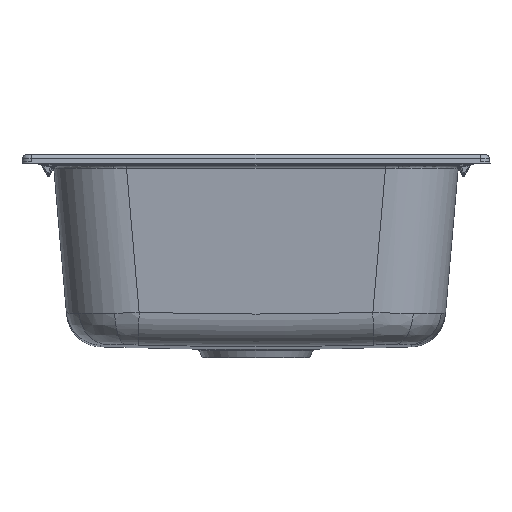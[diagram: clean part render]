
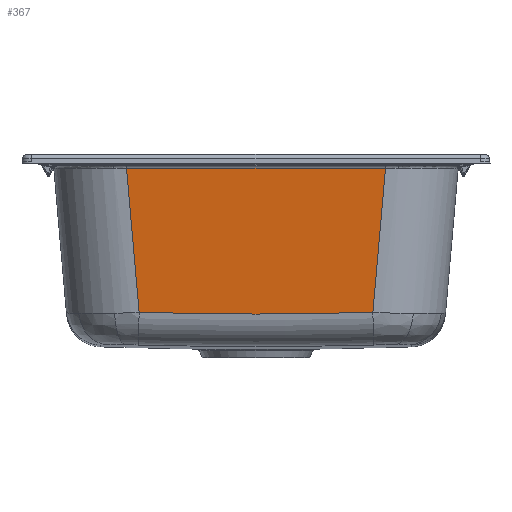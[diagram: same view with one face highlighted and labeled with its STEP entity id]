
A CAD part, left-side view. The second image highlights one B-rep face of the part: STEP entity #367.
In plain terms, the highlighted planar face has unit normal (-0.996, 0, -0.087).
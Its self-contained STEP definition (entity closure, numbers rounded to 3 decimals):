
#367=ADVANCED_FACE('',(#1405),#1406,.T.);
#1405=FACE_OUTER_BOUND('',#6645,.T.);
#1406=PLANE('',#6646);
#6645=EDGE_LOOP('',(#16516,#16517,#16518,#16519,#16520));
#6646=AXIS2_PLACEMENT_3D('',#16521,#16522,#16523);
#16516=ORIENTED_EDGE('',*,*,#20218,.F.);
#16517=ORIENTED_EDGE('',*,*,#20535,.T.);
#16518=ORIENTED_EDGE('',*,*,#20247,.F.);
#16519=ORIENTED_EDGE('',*,*,#20536,.F.);
#16520=ORIENTED_EDGE('',*,*,#20537,.F.);
#16521=CARTESIAN_POINT('',(-396.92,206.705,7.549));
#16522=DIRECTION('',(-0.996,0.,-0.087));
#16523=DIRECTION('',(-0.087,0.0,0.996));
#20218=EDGE_CURVE('',#22691,#22693,#22694,.T.);
#20247=EDGE_CURVE('',#22747,#22748,#22749,.F.);
#20535=EDGE_CURVE('',#22691,#22748,#23212,.T.);
#20536=EDGE_CURVE('',#23213,#22747,#23214,.T.);
#20537=EDGE_CURVE('',#22693,#23213,#23215,.T.);
#22691=VERTEX_POINT('',#29347);
#22693=VERTEX_POINT('',#29352);
#22694=LINE('',#29353,#29354);
#22747=VERTEX_POINT('',#29565);
#22748=VERTEX_POINT('',#29566);
#22749=LINE('',#29567,#29568);
#23212=LINE('',#31494,#31495);
#23213=VERTEX_POINT('',#31496);
#23214=B_SPLINE_CURVE_WITH_KNOTS('',5,(#31497,#31498,#31499,#31500,#31501,#31502),.UNSPECIFIED.,.F.,.F.,(6,6),(0.0,176.58),.UNSPECIFIED.);
#23215=B_SPLINE_CURVE_WITH_KNOTS('',5,(#31503,#31504,#31505,#31506,#31507,#31508),.UNSPECIFIED.,.F.,.F.,(6,6),(0.,176.58),.UNSPECIFIED.);
#29347=CARTESIAN_POINT('',(-396.043,-140.586,-2.481));
#29352=CARTESIAN_POINT('',(-382.553,-127.096,-156.675));
#29353=CARTESIAN_POINT('',(-397.446,-141.989,13.558));
#29354=VECTOR('',#41249,1.0);
#29565=CARTESIAN_POINT('',(-382.553,122.603,-156.675));
#29566=CARTESIAN_POINT('',(-396.043,136.094,-2.481));
#29567=CARTESIAN_POINT('',(-397.446,137.497,13.558));
#29568=VECTOR('',#41268,1.0);
#31494=CARTESIAN_POINT('',(-396.043,-2.246,-2.481));
#31495=VECTOR('',#41490,1.0);
#31496=CARTESIAN_POINT('',(-382.415,-2.246,-158.249));
#31497=CARTESIAN_POINT('',(-382.415,-2.246,-158.249));
#31498=CARTESIAN_POINT('',(-382.415,22.726,-158.249));
#31499=CARTESIAN_POINT('',(-382.429,47.698,-158.091));
#31500=CARTESIAN_POINT('',(-382.456,72.671,-157.777));
#31501=CARTESIAN_POINT('',(-382.498,97.639,-157.304));
#31502=CARTESIAN_POINT('',(-382.553,122.603,-156.675));
#31503=CARTESIAN_POINT('',(-382.553,-127.096,-156.675));
#31504=CARTESIAN_POINT('',(-382.498,-102.131,-157.304));
#31505=CARTESIAN_POINT('',(-382.456,-77.163,-157.777));
#31506=CARTESIAN_POINT('',(-382.429,-52.191,-158.091));
#31507=CARTESIAN_POINT('',(-382.415,-27.218,-158.249));
#31508=CARTESIAN_POINT('',(-382.415,-2.246,-158.249));
#41249=DIRECTION('',(0.087,0.087,-0.992));
#41268=DIRECTION('',(0.087,-0.087,-0.992));
#41490=DIRECTION('',(0.,1.0,0.0));
